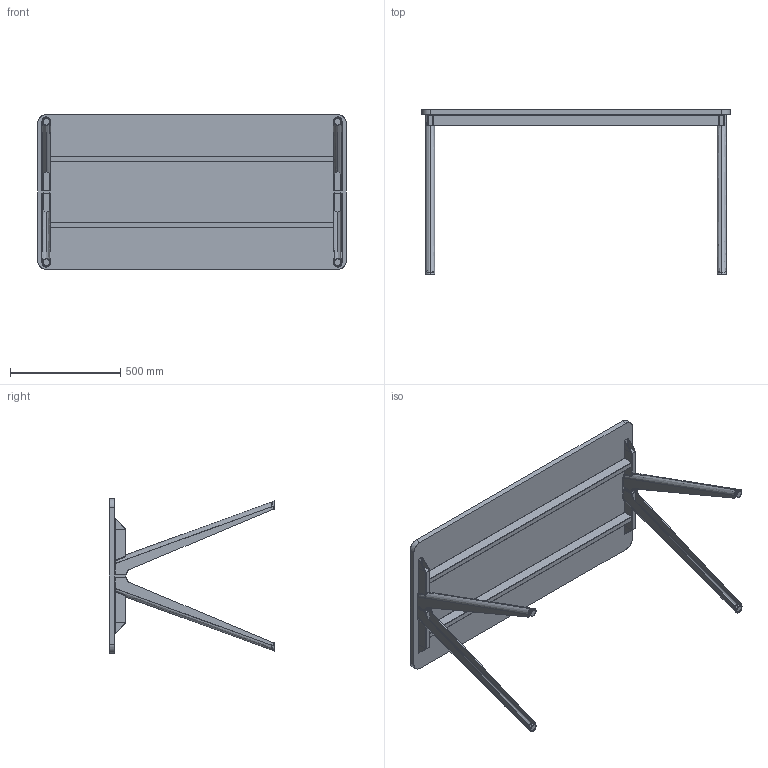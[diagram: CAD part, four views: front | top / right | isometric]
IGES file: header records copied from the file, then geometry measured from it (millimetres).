
Start section: SolidWorks IGES file using analytic representation for surfaces
Global section: file name: C:\Users\simone.cerana\OneDrive - Gruppo Tecno\Desktop\CHINA\DISEGNI DI SERIE\ASSIEMI LISTINO\HORIZON LISTINO\HO1407ST.IGS; native system: SolidWorks 2024; preprocessor: SolidWorks 2024; author: simone.cerana; date: 260508.124213; units: millimetre
Bounding box: 1400 x 749.83 x 700 mm (x, y, z)
Surface area: 3216173.6 mm2 (no closed solid volume)
Topology: 0 solids, 0 shells, 252 faces, 3496 edges, 3496 vertices
Faces by surface type: bspline 166, revolution 86
